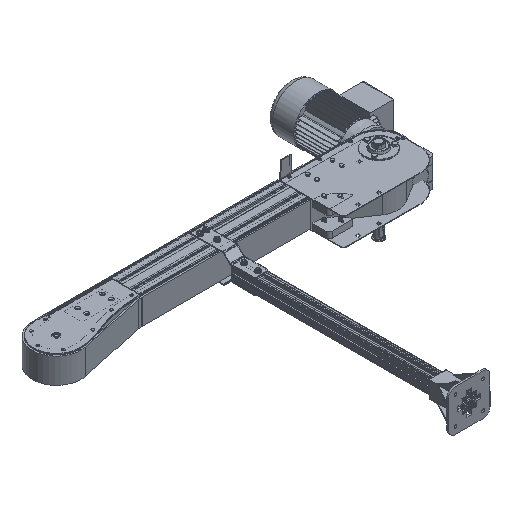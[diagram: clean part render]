
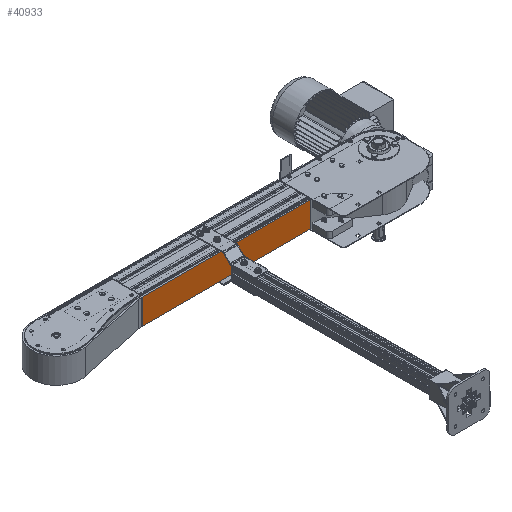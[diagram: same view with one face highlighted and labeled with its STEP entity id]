
A CAD part, isometric view. The second image highlights one B-rep face of the part: STEP entity #40933.
In plain terms, the highlighted planar face has unit normal (0, -1, 0).
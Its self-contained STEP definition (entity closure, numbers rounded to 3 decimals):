
#687 = EDGE_LOOP ( 'NONE', ( #72353, #66904, #24162, #37238 ) ) ;
#5276 = VECTOR ( 'NONE', #89595, 1000. ) ;
#5482 = DIRECTION ( 'NONE',  ( 0., -1., 0. ) ) ;
#6266 = DIRECTION ( 'NONE',  ( 1., 0., 0. ) ) ;
#6507 = DIRECTION ( 'NONE',  ( 0., 0., 1. ) ) ;
#12267 = VERTEX_POINT ( 'NONE', #40855 ) ;
#13242 = PLANE ( 'NONE',  #65563 ) ;
#18677 = DIRECTION ( 'NONE',  ( 1., 0., 0. ) ) ;
#24162 = ORIENTED_EDGE ( 'NONE', *, *, #47020, .F. ) ;
#26986 = LINE ( 'NONE', #35289, #31754 ) ;
#31421 = LINE ( 'NONE', #87059, #75810 ) ;
#31754 = VECTOR ( 'NONE', #18677, 1000. ) ;
#35289 = CARTESIAN_POINT ( 'NONE',  ( 41.25, -105.8, 0. ) ) ;
#36629 = VERTEX_POINT ( 'NONE', #94753 ) ;
#37130 = DIRECTION ( 'NONE',  ( 0., 0., -1. ) ) ;
#37238 = ORIENTED_EDGE ( 'NONE', *, *, #55849, .T. ) ;
#40855 = CARTESIAN_POINT ( 'NONE',  ( -41.25, -105.8, 0. ) ) ;
#40933 = ADVANCED_FACE ( 'NONE', ( #67792 ), #13242, .T. ) ;
#42785 = LINE ( 'NONE', #67222, #5276 ) ;
#43104 = EDGE_CURVE ( 'NONE', #65205, #100987, #31421, .T. ) ;
#44908 = CARTESIAN_POINT ( 'NONE',  ( 41.25, -105.8, 0. ) ) ;
#47020 = EDGE_CURVE ( 'NONE', #12267, #36629, #42785, .T. ) ;
#55849 = EDGE_CURVE ( 'NONE', #12267, #65205, #26986, .T. ) ;
#60784 = CARTESIAN_POINT ( 'NONE',  ( 41.25, -105.8, 550. ) ) ;
#65205 = VERTEX_POINT ( 'NONE', #94148 ) ;
#65563 = AXIS2_PLACEMENT_3D ( 'NONE', #44908, #5482, #37130 ) ;
#66904 = ORIENTED_EDGE ( 'NONE', *, *, #81619, .F. ) ;
#67222 = CARTESIAN_POINT ( 'NONE',  ( -41.25, -105.8, 0. ) ) ;
#67792 = FACE_OUTER_BOUND ( 'NONE', #687, .T. ) ;
#69126 = LINE ( 'NONE', #60784, #71935 ) ;
#71935 = VECTOR ( 'NONE', #6266, 1000. ) ;
#72353 = ORIENTED_EDGE ( 'NONE', *, *, #43104, .T. ) ;
#75810 = VECTOR ( 'NONE', #6507, 1000. ) ;
#81619 = EDGE_CURVE ( 'NONE', #36629, #100987, #69126, .T. ) ;
#84188 = CARTESIAN_POINT ( 'NONE',  ( 41.25, -105.8, 550. ) ) ;
#87059 = CARTESIAN_POINT ( 'NONE',  ( 41.25, -105.8, 0. ) ) ;
#89595 = DIRECTION ( 'NONE',  ( 0., 0., 1. ) ) ;
#94148 = CARTESIAN_POINT ( 'NONE',  ( 41.25, -105.8, 0. ) ) ;
#94753 = CARTESIAN_POINT ( 'NONE',  ( -41.25, -105.8, 550. ) ) ;
#100987 = VERTEX_POINT ( 'NONE', #84188 ) ;
